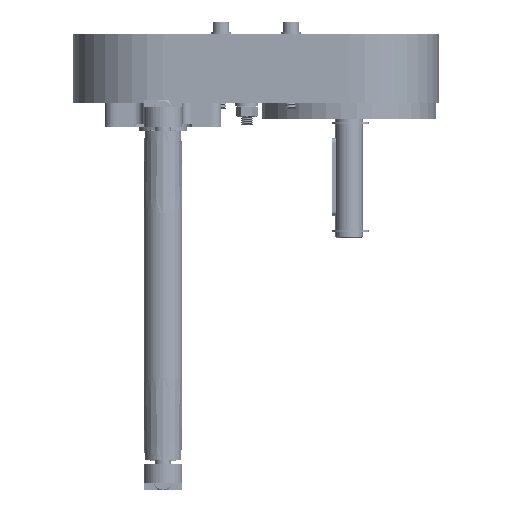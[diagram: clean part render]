
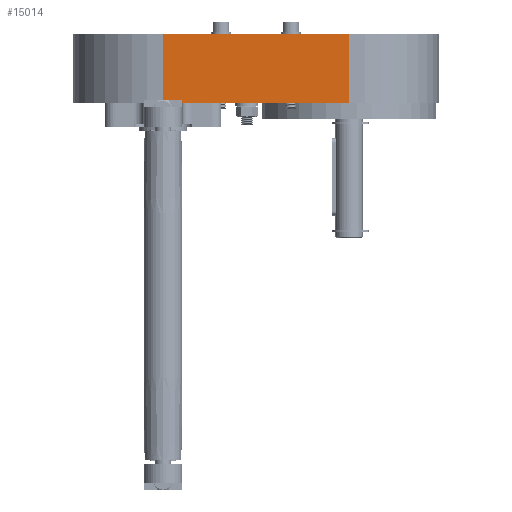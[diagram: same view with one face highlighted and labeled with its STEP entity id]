
A CAD part, left-side view. The second image highlights one B-rep face of the part: STEP entity #15014.
In plain terms, the highlighted planar face has unit normal (-1, 0, 0) as drawn and (1, 0, 0) by its records, which use the part's own axes.
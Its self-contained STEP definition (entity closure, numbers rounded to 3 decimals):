
#1720 = VERTEX_POINT ( 'NONE', #3383 ) ;
#3383 = CARTESIAN_POINT ( 'NONE',  ( 46.25, 0., 0. ) ) ;
#9185 = ORIENTED_EDGE ( 'NONE', *, *, #37207, .F. ) ;
#10477 = LINE ( 'NONE', #13436, #23773 ) ;
#12900 = EDGE_CURVE ( 'NONE', #40383, #38893, #52682, .T. ) ;
#13436 = CARTESIAN_POINT ( 'NONE',  ( 46.25, -96., 36. ) ) ;
#13951 = DIRECTION ( 'NONE',  ( 0., 0., -1. ) ) ;
#14449 = ORIENTED_EDGE ( 'NONE', *, *, #55700, .T. ) ;
#15014 = ADVANCED_FACE ( 'NONE', ( #37803 ), #49952, .F. ) ;
#16484 = LINE ( 'NONE', #30413, #64413 ) ;
#21717 = CARTESIAN_POINT ( 'NONE',  ( 46.25, -96., 36. ) ) ;
#22324 = VERTEX_POINT ( 'NONE', #57744 ) ;
#23773 = VECTOR ( 'NONE', #13951, 1000. ) ;
#26342 = ORIENTED_EDGE ( 'NONE', *, *, #12900, .F. ) ;
#29552 = VECTOR ( 'NONE', #31611, 1000. ) ;
#30103 = EDGE_LOOP ( 'NONE', ( #43692, #9185, #26342, #14449 ) ) ;
#30413 = CARTESIAN_POINT ( 'NONE',  ( 46.25, -96., 0. ) ) ;
#31611 = DIRECTION ( 'NONE',  ( 0., 1., 0. ) ) ;
#33216 = DIRECTION ( 'NONE',  ( 0., -1., 0. ) ) ;
#34097 = EDGE_CURVE ( 'NONE', #22324, #1720, #16484, .T. ) ;
#34690 = VECTOR ( 'NONE', #43190, 1000. ) ;
#37207 = EDGE_CURVE ( 'NONE', #38893, #1720, #44387, .T. ) ;
#37504 = CARTESIAN_POINT ( 'NONE',  ( 46.25, 0., 36. ) ) ;
#37803 = FACE_OUTER_BOUND ( 'NONE', #30103, .T. ) ;
#38893 = VERTEX_POINT ( 'NONE', #65659 ) ;
#40383 = VERTEX_POINT ( 'NONE', #69573 ) ;
#43190 = DIRECTION ( 'NONE',  ( 0., 0., -1. ) ) ;
#43692 = ORIENTED_EDGE ( 'NONE', *, *, #34097, .T. ) ;
#44387 = LINE ( 'NONE', #37504, #34690 ) ;
#49952 = PLANE ( 'NONE',  #71472 ) ;
#52682 = LINE ( 'NONE', #64783, #29552 ) ;
#55429 = DIRECTION ( 'NONE',  ( -1., 0., 0. ) ) ;
#55700 = EDGE_CURVE ( 'NONE', #40383, #22324, #10477, .T. ) ;
#57744 = CARTESIAN_POINT ( 'NONE',  ( 46.25, -96., 0. ) ) ;
#64413 = VECTOR ( 'NONE', #70749, 1000. ) ;
#64783 = CARTESIAN_POINT ( 'NONE',  ( 46.25, -96., 36. ) ) ;
#65659 = CARTESIAN_POINT ( 'NONE',  ( 46.25, 0., 36. ) ) ;
#69573 = CARTESIAN_POINT ( 'NONE',  ( 46.25, -96., 36. ) ) ;
#70749 = DIRECTION ( 'NONE',  ( 0., 1., 0. ) ) ;
#71472 = AXIS2_PLACEMENT_3D ( 'NONE', #21717, #55429, #33216 ) ;
